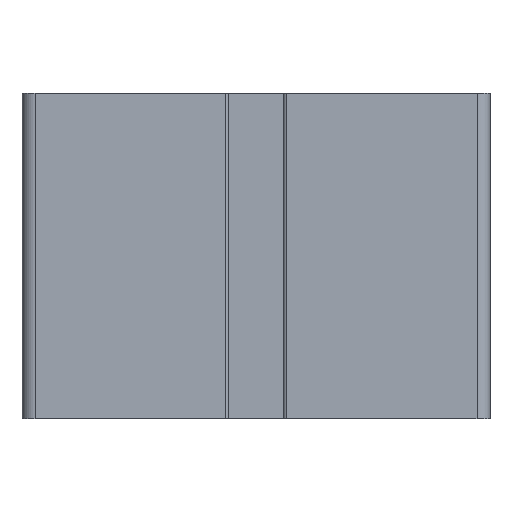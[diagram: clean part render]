
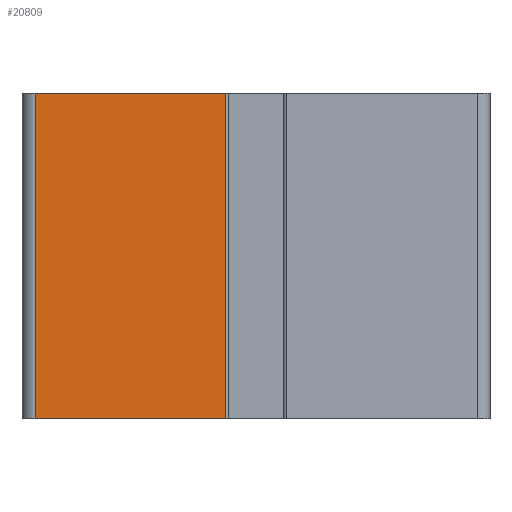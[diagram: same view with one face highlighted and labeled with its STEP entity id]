
A CAD part, front view. The second image highlights one B-rep face of the part: STEP entity #20809.
In plain terms, the highlighted planar face has unit normal (0, -1, 0).
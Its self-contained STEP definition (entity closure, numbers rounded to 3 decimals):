
#34069 = EDGE_CURVE ( 'NONE', #14043, #36324, #41184, .T. ) ;
#34969 = ORIENTED_EDGE ( 'NONE', *, *, #34069, .F. ) ;
#2930 = CARTESIAN_POINT ( 'NONE',  ( -4.75, -94., 50. ) ) ;
#19557 = ORIENTED_EDGE ( 'NONE', *, *, #39721, .T. ) ;
#19617 = FACE_OUTER_BOUND ( 'NONE', #20461, .T. ) ;
#19618 = PLANE ( 'NONE',  #19619 ) ;
#19619 = AXIS2_PLACEMENT_3D ( 'NONE', #19620, #19648, #19649 ) ;
#19620 = CARTESIAN_POINT ( 'NONE',  ( -34., -94., 50. ) ) ;
#19648 = DIRECTION ( 'NONE',  ( 0., 1., 0. ) ) ;
#19649 = DIRECTION ( 'NONE',  ( -1., 0., 0. ) ) ;
#36324 = VERTEX_POINT ( 'NONE', #2930 ) ;
#3710 = LINE ( 'NONE', #3711, #3712 ) ;
#3711 = CARTESIAN_POINT ( 'NONE',  ( -4.75, -94., 50. ) ) ;
#3712 = VECTOR ( 'NONE', #3739, 1000. ) ;
#3739 = DIRECTION ( 'NONE',  ( 0., 0., -1. ) ) ;
#20461 = EDGE_LOOP ( 'NONE', ( #19557, #37794, #34969, #32721 ) ) ;
#36890 = EDGE_CURVE ( 'NONE', #36324, #39152, #3710, .T. ) ;
#20809 = ADVANCED_FACE ( 'NONE', ( #19617 ), #19618, .F. ) ;
#37794 = ORIENTED_EDGE ( 'NONE', *, *, #36890, .F. ) ;
#39152 = VERTEX_POINT ( 'NONE', #7373 ) ;
#39721 = EDGE_CURVE ( 'NONE', #26727, #39152, #8047, .T. ) ;
#7373 = CARTESIAN_POINT ( 'NONE',  ( -4.75, -94., 0. ) ) ;
#8027 = CARTESIAN_POINT ( 'NONE',  ( -34., -94., 50. ) ) ;
#8047 = LINE ( 'NONE', #8071, #8072 ) ;
#8071 = CARTESIAN_POINT ( 'NONE',  ( -34., -94., 0. ) ) ;
#8072 = VECTOR ( 'NONE', #8073, 1000. ) ;
#8073 = DIRECTION ( 'NONE',  ( 1., 0., 0. ) ) ;
#41184 = LINE ( 'NONE', #41185, #41186 ) ;
#41185 = CARTESIAN_POINT ( 'NONE',  ( -34., -94., 50. ) ) ;
#41186 = VECTOR ( 'NONE', #41221, 1000. ) ;
#41221 = DIRECTION ( 'NONE',  ( 1., 0., 0. ) ) ;
#25087 = EDGE_CURVE ( 'NONE', #14043, #26727, #26250, .T. ) ;
#26250 = LINE ( 'NONE', #26251, #26252 ) ;
#26251 = CARTESIAN_POINT ( 'NONE',  ( -34., -94., 50. ) ) ;
#26252 = VECTOR ( 'NONE', #26253, 1000. ) ;
#26253 = DIRECTION ( 'NONE',  ( 0., 0., -1. ) ) ;
#26727 = VERTEX_POINT ( 'NONE', #29676 ) ;
#29676 = CARTESIAN_POINT ( 'NONE',  ( -34., -94., 0. ) ) ;
#14043 = VERTEX_POINT ( 'NONE', #8027 ) ;
#32721 = ORIENTED_EDGE ( 'NONE', *, *, #25087, .T. ) ;
